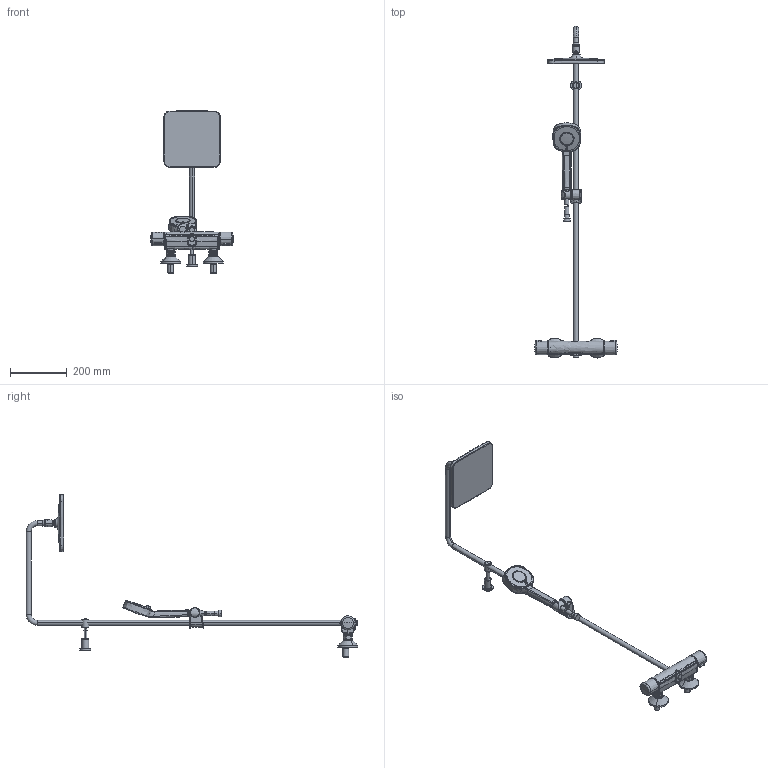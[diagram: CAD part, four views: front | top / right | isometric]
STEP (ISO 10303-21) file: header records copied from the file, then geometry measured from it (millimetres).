
FILE_DESCRIPTION (( 'STEP AP203' ), '1' );
FILE_NAME ('7403U(2021)+44350230(2021).STEP', '2020-12-15T11:11:23', ( '' ), ( '' ), 'SwSTEP 2.0', 'SolidWorks 2016', '' );
FILE_SCHEMA (( 'CONFIG_CONTROL_DESIGN' ));
Products named in the file (1): 7403U(2021)+44350230(2021)
Bounding box: 289.92 x 1165.16 x 569.97 mm (x, y, z)
Volume: 1951662.8 mm3; surface area: 444222 mm2
Topology: 30 solids, 30 shells, 996 faces, 2280 edges, 1356 vertices
Faces by surface type: bspline 424, cylinder 219, plane 138, cone 96, torus 83, sphere 36
Entity records: 90678 total; most frequent: CARTESIAN_POINT 71797, ORIENTED_EDGE 4528, DIRECTION 3009, EDGE_CURVE 2264, VERTEX_POINT 1354, AXIS2_PLACEMENT_3D 1321, B_SPLINE_CURVE_WITH_KNOTS 1032, EDGE_LOOP 1024
